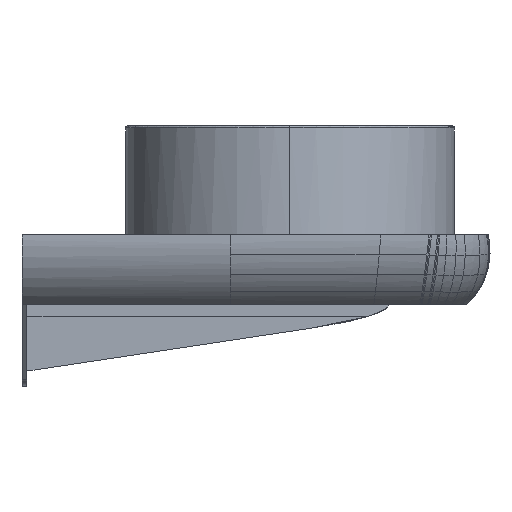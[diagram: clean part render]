
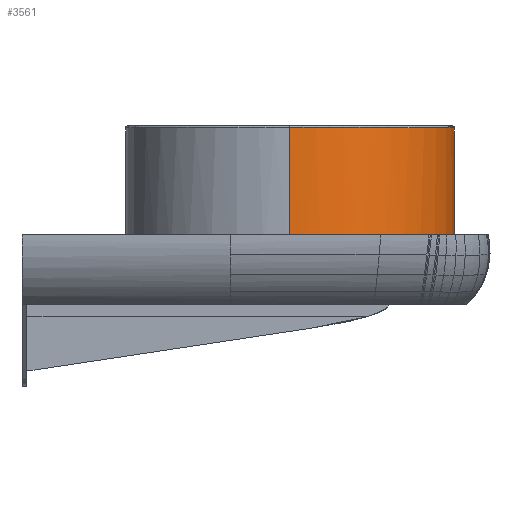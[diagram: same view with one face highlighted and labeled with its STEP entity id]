
A CAD part, left-side view. The second image highlights one B-rep face of the part: STEP entity #3561.
In plain terms, the highlighted free-form (B-spline) face has degree [5, 1] with [15, 2] control points.
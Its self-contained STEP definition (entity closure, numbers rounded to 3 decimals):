
#1199=(
BOUNDED_CURVE()
B_SPLINE_CURVE(2,(#135428,#135429,#135430),.UNSPECIFIED.,.F.,.F.)
B_SPLINE_CURVE_WITH_KNOTS((3,3),(323.127,646.254),
 .UNSPECIFIED.)
CURVE()
GEOMETRIC_REPRESENTATION_ITEM()
RATIONAL_B_SPLINE_CURVE((1.,0.707,1.))
REPRESENTATION_ITEM('')
);
#1217=(
BOUNDED_CURVE()
B_SPLINE_CURVE(5,(#135961,#135962,#135963,#135964,#135965,#135966),
 .UNSPECIFIED.,.F.,.F.)
B_SPLINE_CURVE_WITH_KNOTS((6,6),(0.,133.),.UNSPECIFIED.)
CURVE()
GEOMETRIC_REPRESENTATION_ITEM()
RATIONAL_B_SPLINE_CURVE((1.,1.,1.,1.,1.,1.))
REPRESENTATION_ITEM('')
);
#1219=(
BOUNDED_CURVE()
B_SPLINE_CURVE(2,(#135973,#135974,#135975),.UNSPECIFIED.,.F.,.F.)
B_SPLINE_CURVE_WITH_KNOTS((3,3),(-330.,0.),.UNSPECIFIED.)
CURVE()
GEOMETRIC_REPRESENTATION_ITEM()
RATIONAL_B_SPLINE_CURVE((1.,0.707,1.))
REPRESENTATION_ITEM('')
);
#1220=(
BOUNDED_CURVE()
B_SPLINE_CURVE(5,(#135976,#135977,#135978,#135979,#135980,#135981),
 .UNSPECIFIED.,.F.,.F.)
B_SPLINE_CURVE_WITH_KNOTS((6,6),(0.,133.),.UNSPECIFIED.)
CURVE()
GEOMETRIC_REPRESENTATION_ITEM()
RATIONAL_B_SPLINE_CURVE((1.,1.,1.,1.,1.,1.))
REPRESENTATION_ITEM('')
);
#3561=ADVANCED_FACE('',(#5104),#23186,.T.);
#5104=FACE_OUTER_BOUND('',#6686,.T.);
#6686=EDGE_LOOP('',(#13891,#13892,#13893,#13894));
#13891=ORIENTED_EDGE('',*,*,#17695,.F.);
#13892=ORIENTED_EDGE('',*,*,#17696,.T.);
#13893=ORIENTED_EDGE('',*,*,#17647,.F.);
#13894=ORIENTED_EDGE('',*,*,#17693,.F.);
#17647=EDGE_CURVE('',#22367,#22366,#1199,.T.);
#17693=EDGE_CURVE('',#22392,#22367,#1217,.T.);
#17695=EDGE_CURVE('',#22394,#22392,#1219,.T.);
#17696=EDGE_CURVE('',#22394,#22366,#1220,.T.);
#22366=VERTEX_POINT('',#135025);
#22367=VERTEX_POINT('',#135026);
#22392=VERTEX_POINT('',#135051);
#22394=VERTEX_POINT('',#135053);
#23186=B_SPLINE_SURFACE_WITH_KNOTS('',5,1,((#133496,#133497),(#133498,#133499),
(#133500,#133501),(#133502,#133503),(#133504,#133505),(#133506,#133507),
(#133508,#133509),(#133510,#133511),(#133512,#133513),(#133514,#133515),
(#133516,#133517),(#133518,#133519),(#133520,#133521),(#133522,#133523),
(#133524,#133525)),.UNSPECIFIED.,.F.,.F.,.F.,(6,3,3,3,6),(2,2),(303.74,
403.909,484.691,565.473,665.642),(256.168,
426.744),.UNSPECIFIED.);
#133496=CARTESIAN_POINT('',(-353.669,-433.427,121.648));
#133497=CARTESIAN_POINT('',(-353.669,-433.427,-40.612));
#133498=CARTESIAN_POINT('',(-367.571,-434.588,121.648));
#133499=CARTESIAN_POINT('',(-367.571,-434.588,-40.612));
#133500=CARTESIAN_POINT('',(-382.269,-434.338,121.648));
#133501=CARTESIAN_POINT('',(-382.269,-434.338,-40.612));
#133502=CARTESIAN_POINT('',(-397.566,-432.367,121.648));
#133503=CARTESIAN_POINT('',(-397.566,-432.367,-40.612));
#133504=CARTESIAN_POINT('',(-425.499,-425.196,121.648));
#133505=CARTESIAN_POINT('',(-425.499,-425.196,-40.612));
#133506=CARTESIAN_POINT('',(-452.285,-411.457,121.648));
#133507=CARTESIAN_POINT('',(-452.285,-411.457,-40.612));
#133508=CARTESIAN_POINT('',(-463.746,-404.003,121.648));
#133509=CARTESIAN_POINT('',(-463.746,-404.003,-40.612));
#133510=CARTESIAN_POINT('',(-485.078,-386.673,121.648));
#133511=CARTESIAN_POINT('',(-485.078,-386.673,-40.612));
#133512=CARTESIAN_POINT('',(-502.408,-365.341,121.648));
#133513=CARTESIAN_POINT('',(-502.408,-365.341,-40.612));
#133514=CARTESIAN_POINT('',(-509.862,-353.88,121.648));
#133515=CARTESIAN_POINT('',(-509.862,-353.88,-40.612));
#133516=CARTESIAN_POINT('',(-523.601,-327.094,121.648));
#133517=CARTESIAN_POINT('',(-523.601,-327.094,-40.612));
#133518=CARTESIAN_POINT('',(-530.772,-299.161,121.648));
#133519=CARTESIAN_POINT('',(-530.772,-299.161,-40.612));
#133520=CARTESIAN_POINT('',(-532.742,-283.864,121.648));
#133521=CARTESIAN_POINT('',(-532.742,-283.864,-40.612));
#133522=CARTESIAN_POINT('',(-532.993,-269.166,121.648));
#133523=CARTESIAN_POINT('',(-532.993,-269.166,-40.612));
#133524=CARTESIAN_POINT('',(-531.832,-255.264,121.648));
#133525=CARTESIAN_POINT('',(-531.832,-255.264,-40.612));
#135025=CARTESIAN_POINT('',(-532.405,-269.,-25.982));
#135026=CARTESIAN_POINT('',(-367.405,-434.,-25.982));
#135051=CARTESIAN_POINT('',(-367.405,-434.,107.018));
#135053=CARTESIAN_POINT('',(-532.405,-269.,107.018));
#135428=CARTESIAN_POINT('',(-367.405,-434.,-25.982));
#135429=CARTESIAN_POINT('',(-532.405,-434.,-25.982));
#135430=CARTESIAN_POINT('',(-532.405,-269.,-25.982));
#135961=CARTESIAN_POINT('',(-367.405,-434.,107.018));
#135962=CARTESIAN_POINT('',(-367.405,-434.,80.418));
#135963=CARTESIAN_POINT('',(-367.405,-434.,53.818));
#135964=CARTESIAN_POINT('',(-367.405,-434.,27.218));
#135965=CARTESIAN_POINT('',(-367.405,-434.,0.618));
#135966=CARTESIAN_POINT('',(-367.405,-434.,-25.982));
#135973=CARTESIAN_POINT('',(-532.405,-269.,107.018));
#135974=CARTESIAN_POINT('',(-532.405,-434.,107.018));
#135975=CARTESIAN_POINT('',(-367.405,-434.,107.018));
#135976=CARTESIAN_POINT('',(-532.405,-269.,107.018));
#135977=CARTESIAN_POINT('',(-532.405,-269.,80.418));
#135978=CARTESIAN_POINT('',(-532.405,-269.,53.818));
#135979=CARTESIAN_POINT('',(-532.405,-269.,27.218));
#135980=CARTESIAN_POINT('',(-532.405,-269.,0.618));
#135981=CARTESIAN_POINT('',(-532.405,-269.,-25.982));
